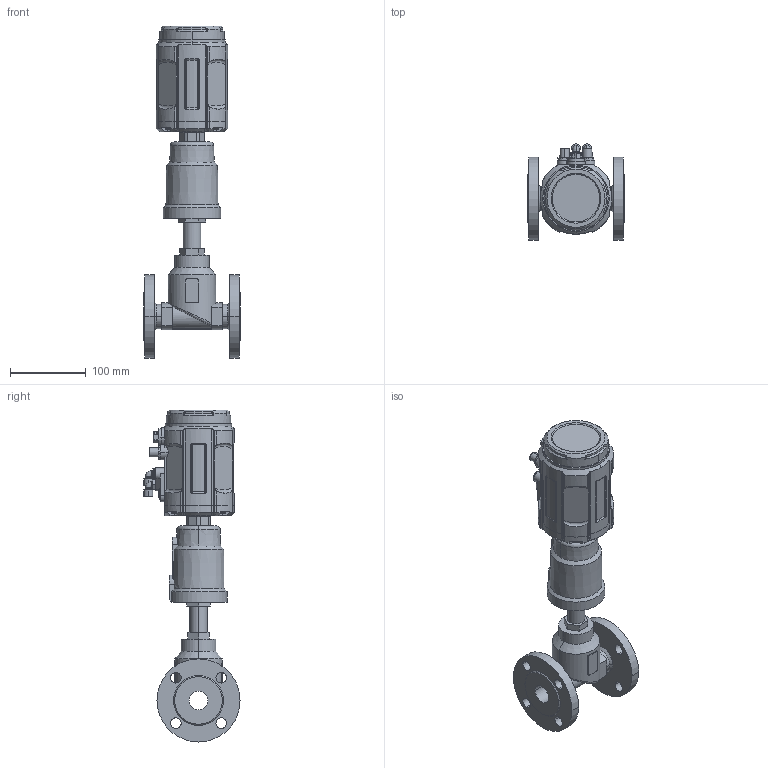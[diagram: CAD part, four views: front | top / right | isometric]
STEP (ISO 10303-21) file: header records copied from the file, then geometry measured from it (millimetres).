
FILE_DESCRIPTION((''),'2;1');
FILE_NAME('PV_F_EPP_P_2_ASM','2025-03-06T',('USER'),(''),'PRO/ENGINEER BY PARAMETRIC TECHNOLOGY CORPORATION, 2011220','PRO/ENGINEER BY PARAMETRIC TECHNOLOGY CORPORATION, 2011220','');
FILE_SCHEMA(('CONFIG_CONTROL_DESIGN'));
Length unit declared in the file: millimetre
Products named in the file (12): KLAPAN; PNEVMOPRIVOD; KOLCO_52_GOST13943; POZICIONER_VERX; POZICIONER_NIZ; SHLYAPKA_VINT; DET; DET_2; SHLYAPKA_VINT_2; DET_3; SB_POZICIONER_ASM; PV_F_EPP_P_2_ASM
Assembly tree (18 placements, depth 3):
  PV_F_EPP_P_2_ASM
    KLAPAN
    PNEVMOPRIVOD
    KOLCO_52_GOST13943
    SB_POZICIONER_ASM
      POZICIONER_VERX
      POZICIONER_NIZ
      SHLYAPKA_VINT  x4
      DET
      DET_2
      SHLYAPKA_VINT_2  x4
      DET_3  x2
Bounding box: 128 x 127.25 x 439.5 mm (x, y, z)
Volume: 1833186.5 mm3; surface area: 209309 mm2
Topology: 17 solids, 22 shells, 819 faces, 2061 edges, 1346 vertices
Faces by surface type: plane 396, cylinder 327, cone 48, torus 24, bspline 12, sphere 12
Entity records: 22118 total; most frequent: CARTESIAN_POINT 5404, DIRECTION 3505, ORIENTED_EDGE 3376, EDGE_CURVE 1698, AXIS2_PLACEMENT_3D 1322, VERTEX_POINT 1111, VECTOR 861, LINE 861
